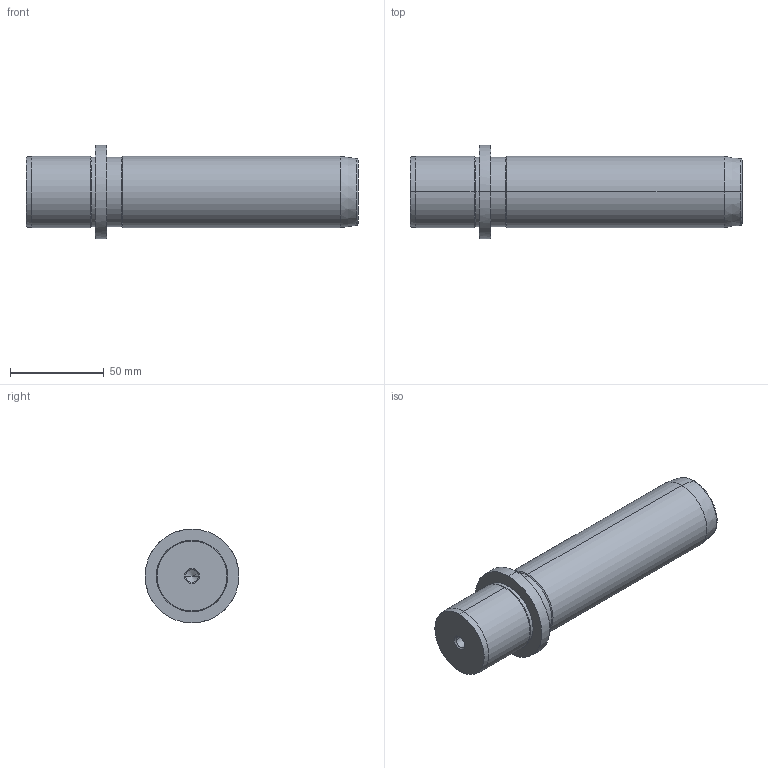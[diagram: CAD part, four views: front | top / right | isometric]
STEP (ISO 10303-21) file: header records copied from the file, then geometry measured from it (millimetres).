
FILE_DESCRIPTION(('CATIA V5 STEP Exchange'),'2;1');
FILE_NAME('C:\Users\Utente\Desktop\IO LAVORO\3D X SITO CF\X SITO\718\718-38x140.stp','2021-01-02T12:58:37+00:00',('none'),('none'),'CATIA Version 5 Release 20 GA (IN-10)','CATIA V5 STEP AP203','none');
FILE_SCHEMA(('CONFIG_CONTROL_DESIGN'));
Length unit declared in the file: millimetre
Products named in the file (1): 718-38x140
Bounding box: 177 x 50 x 50 mm (x, y, z)
Volume: 202533.7 mm3; surface area: 26138.1 mm2
Topology: 1 solids, 1 shells, 36 faces, 100 edges, 66 vertices
Faces by surface type: cone 16, cylinder 14, plane 4, torus 2
Entity records: 1291 total; most frequent: CARTESIAN_POINT 362, ORIENTED_EDGE 192, DIRECTION 157, EDGE_CURVE 96, AXIS2_PLACEMENT_3D 92, VERTEX_POINT 66, CIRCLE 55, EDGE_LOOP 40
